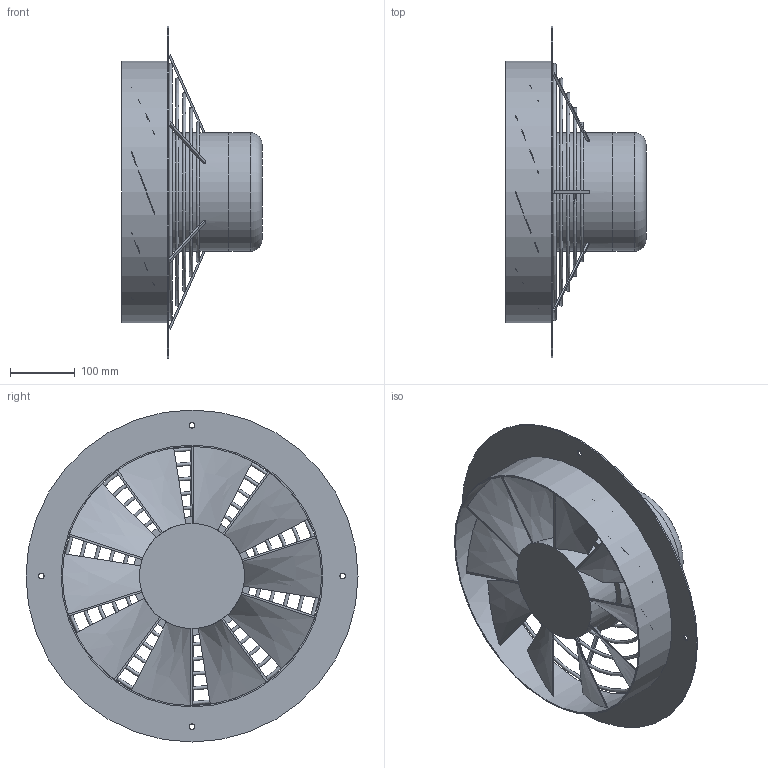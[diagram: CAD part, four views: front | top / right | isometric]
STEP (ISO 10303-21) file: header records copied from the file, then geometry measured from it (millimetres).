
FILE_DESCRIPTION(/* description */ (''),/* implementation_level */ '2;1');
FILE_NAME(/* name */ 'Z:\Output\HWW_EC_400_A-04923-001.stp',/* time_stamp */ '2020-05-11T11:25:11+02:00',/* author */ ('Engineering1'),/* organization */ (''),/* preprocessor_version */ 'ST-DEVELOPER v17.2',/* originating_system */ 'Autodesk Inventor 2019',/* authorisation */ '');
FILE_SCHEMA (('AUTOMOTIVE_DESIGN { 1 0 10303 214 3 1 1 }'));
Length unit declared in the file: millimetre
Products named in the file (1): HW-1
Bounding box: 215.99 x 512 x 512 mm (x, y, z)
Volume: 5500351.2 mm3; surface area: 775503.8 mm2
Topology: 5 solids, 5 shells, 116 faces, 335 edges, 227 vertices
Faces by surface type: plane 69, bspline 30, cylinder 11, torus 6
Full cylindrical faces by diameter (mm): 9 x4, 162 x1, 182.998 x1, 183 x1, 400 x1, 404 x1, 512 x1
Entity records: 5187 total; most frequent: CARTESIAN_POINT 1955, ORIENTED_EDGE 702, DIRECTION 506, EDGE_CURVE 351, VERTEX_POINT 249, AXIS2_PLACEMENT_3D 172, LINE 162, VECTOR 162
